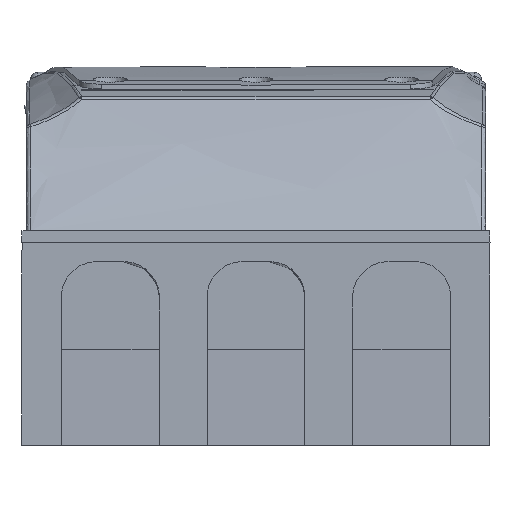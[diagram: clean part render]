
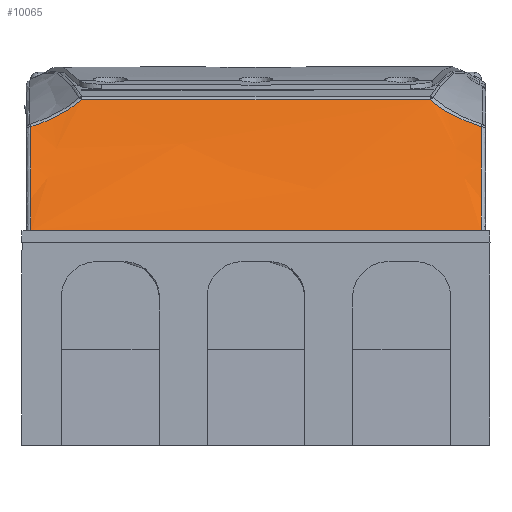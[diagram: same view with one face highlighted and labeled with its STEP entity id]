
A CAD part, left-side view. The second image highlights one B-rep face of the part: STEP entity #10065.
In plain terms, the highlighted face is a extrusion surface.
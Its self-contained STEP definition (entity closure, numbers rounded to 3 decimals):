
#3818=SURFACE_OF_LINEAR_EXTRUSION('',#4968,#7809);
#4968=ELLIPSE('',#31011,35.,12.5);
#5888=LINE('',#42534,#7364);
#6294=LINE('',#53594,#7770);
#7364=VECTOR('',#33645,1.);
#7770=VECTOR('',#35453,1.);
#7809=VECTOR('',#35734,1.);
#8877=B_SPLINE_CURVE_WITH_KNOTS('',3,(#43394,#43395,#43396,#43397,#43398,
#43399),.UNSPECIFIED.,.F.,.F.,(4,2,4),(0.,0.5,1.),.UNSPECIFIED.);
#9238=B_SPLINE_CURVE_WITH_KNOTS('',3,(#53562,#53563,#53564,#53565,#53566,
#53567),.UNSPECIFIED.,.F.,.F.,(4,2,4),(0.,0.5,1.),.UNSPECIFIED.);
#9257=B_SPLINE_CURVE_WITH_KNOTS('',3,(#54038,#54039,#54040,#54041,#54042,
#54043),.UNSPECIFIED.,.F.,.F.,(4,2,4),(0.,0.5,1.),.UNSPECIFIED.);
#9295=B_SPLINE_CURVE_WITH_KNOTS('',3,(#55249,#55250,#55251,#55252,#55253,
#55254),.UNSPECIFIED.,.F.,.F.,(4,2,4),(0.,0.5,1.),.UNSPECIFIED.);
#10065=ADVANCED_FACE('',(#12327),#3818,.F.);
#12327=FACE_OUTER_BOUND('',#13803,.T.);
#13803=EDGE_LOOP('',(#17903,#17904,#17905,#17906,#17907,#17908));
#17903=ORIENTED_EDGE('',*,*,#27179,.T.);
#17904=ORIENTED_EDGE('',*,*,#27124,.T.);
#17905=ORIENTED_EDGE('',*,*,#27119,.T.);
#17906=ORIENTED_EDGE('',*,*,#26180,.T.);
#17907=ORIENTED_EDGE('',*,*,#25922,.F.);
#17908=ORIENTED_EDGE('',*,*,#27289,.T.);
#23303=VERTEX_POINT('',#42533);
#23304=VERTEX_POINT('',#42535);
#23519=VERTEX_POINT('',#43400);
#24130=VERTEX_POINT('',#53554);
#24133=VERTEX_POINT('',#53591);
#24161=VERTEX_POINT('',#54044);
#25922=EDGE_CURVE('',#23303,#23304,#5888,.T.);
#26180=EDGE_CURVE('',#23519,#23304,#8877,.T.);
#27119=EDGE_CURVE('',#24130,#23519,#9238,.T.);
#27124=EDGE_CURVE('',#24133,#24130,#6294,.T.);
#27179=EDGE_CURVE('',#24161,#24133,#9257,.T.);
#27289=EDGE_CURVE('',#23303,#24161,#9295,.T.);
#31011=AXIS2_PLACEMENT_3D('',#55255,#35732,#35733);
#33645=DIRECTION('',(0.,1.,0.));
#35453=DIRECTION('',(0.,1.,0.));
#35732=DIRECTION('',(0.,-1.,0.));
#35733=DIRECTION('',(0.568,0.,0.823));
#35734=DIRECTION('',(0.,-1.,0.));
#42533=CARTESIAN_POINT('',(-101.724,128.054,45.002));
#42534=CARTESIAN_POINT('',(-101.724,128.054,45.002));
#42535=CARTESIAN_POINT('',(-101.724,230.054,45.002));
#43394=CARTESIAN_POINT('',(-86.218,230.054,68.653));
#43395=CARTESIAN_POINT('',(-88.144,230.054,64.325));
#43396=CARTESIAN_POINT('',(-90.477,230.054,60.186));
#43397=CARTESIAN_POINT('',(-95.675,230.054,52.289));
#43398=CARTESIAN_POINT('',(-98.555,230.054,48.515));
#43399=CARTESIAN_POINT('',(-101.724,230.054,45.002));
#43400=CARTESIAN_POINT('',(-86.218,230.054,68.653));
#53554=CARTESIAN_POINT('',(-83.866,218.53,74.757));
#53562=CARTESIAN_POINT('',(-83.866,218.53,74.757));
#53563=CARTESIAN_POINT('',(-84.332,220.168,73.302));
#53564=CARTESIAN_POINT('',(-84.77,222.048,72.144));
#53565=CARTESIAN_POINT('',(-85.561,225.922,70.155));
#53566=CARTESIAN_POINT('',(-85.918,227.946,69.327));
#53567=CARTESIAN_POINT('',(-86.218,230.054,68.653));
#53591=CARTESIAN_POINT('',(-83.866,139.577,74.757));
#53594=CARTESIAN_POINT('',(-83.866,139.577,74.757));
#54038=CARTESIAN_POINT('',(-86.218,128.054,68.653));
#54039=CARTESIAN_POINT('',(-85.918,130.16,69.326));
#54040=CARTESIAN_POINT('',(-85.559,132.197,70.159));
#54041=CARTESIAN_POINT('',(-84.761,136.098,72.166));
#54042=CARTESIAN_POINT('',(-84.33,137.946,73.308));
#54043=CARTESIAN_POINT('',(-83.866,139.577,74.757));
#54044=CARTESIAN_POINT('',(-86.218,128.054,68.653));
#55249=CARTESIAN_POINT('',(-101.724,128.054,45.002));
#55250=CARTESIAN_POINT('',(-98.56,128.054,48.509));
#55251=CARTESIAN_POINT('',(-95.679,128.054,52.283));
#55252=CARTESIAN_POINT('',(-90.477,128.054,60.186));
#55253=CARTESIAN_POINT('',(-88.144,128.054,64.326));
#55254=CARTESIAN_POINT('',(-86.218,128.054,68.653));
#55255=CARTESIAN_POINT('',(-104.569,231.054,61.55));
